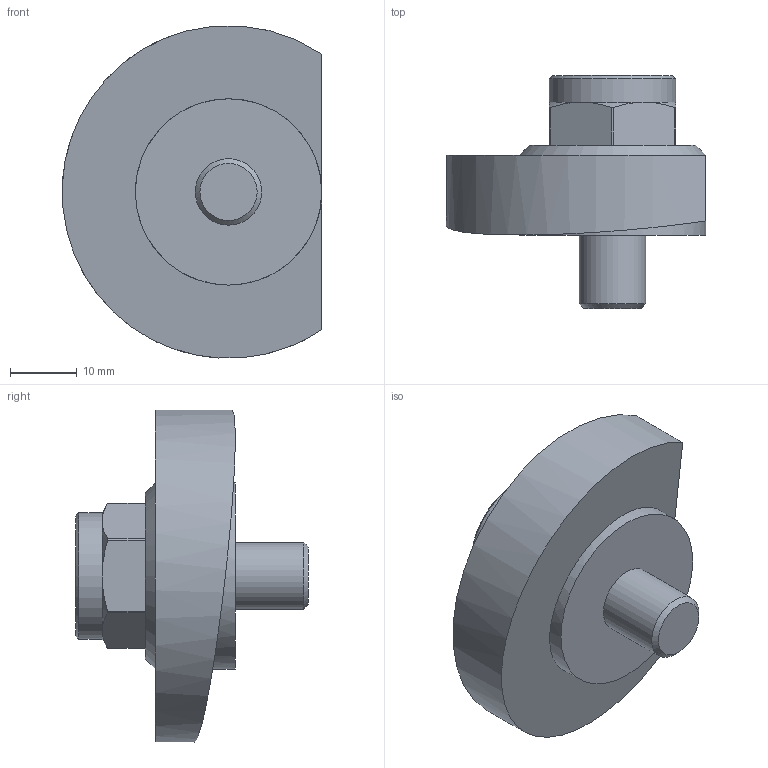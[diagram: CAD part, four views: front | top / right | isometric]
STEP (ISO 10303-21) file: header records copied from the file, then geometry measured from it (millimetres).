
FILE_DESCRIPTION( ( 'STEP AP203' ), '1' );
FILE_NAME( 'C:/Temp/Ganter_Step_05_03_2020/data/2_3/gn_918_2/Clamping bolt GN 918.2-50-SK-R.stp', '2020-03-05T13:12:08', ( 'License CC BY-ND 4.0' ), ( 'CADENAS' ), ' ', 'PARTsolutions', ' ' );
FILE_SCHEMA( ( 'CONFIG_CONTROL_DESIGN' ) );
Length unit declared in the file: millimetre
Products named in the file (1): _Clamping bolt GN 918.2-50-SK-R
Bounding box: 38.98 x 35 x 49.89 mm (x, y, z)
Volume: 21266.7 mm3; surface area: 6101.1 mm2
Topology: 1 solids, 1 shells, 46 faces, 114 edges, 70 vertices
Faces by surface type: plane 25, cylinder 11, cone 10
Full cylindrical faces by diameter (mm): 6 x1, 10 x1, 19 x1, 28 x1
Entity records: 1324 total; most frequent: CARTESIAN_POINT 278, DIRECTION 214, ORIENTED_EDGE 192, EDGE_CURVE 96, AXIS2_PLACEMENT_3D 83, VERTEX_POINT 63, EDGE_LOOP 56, FACE_OUTER_BOUND 50
